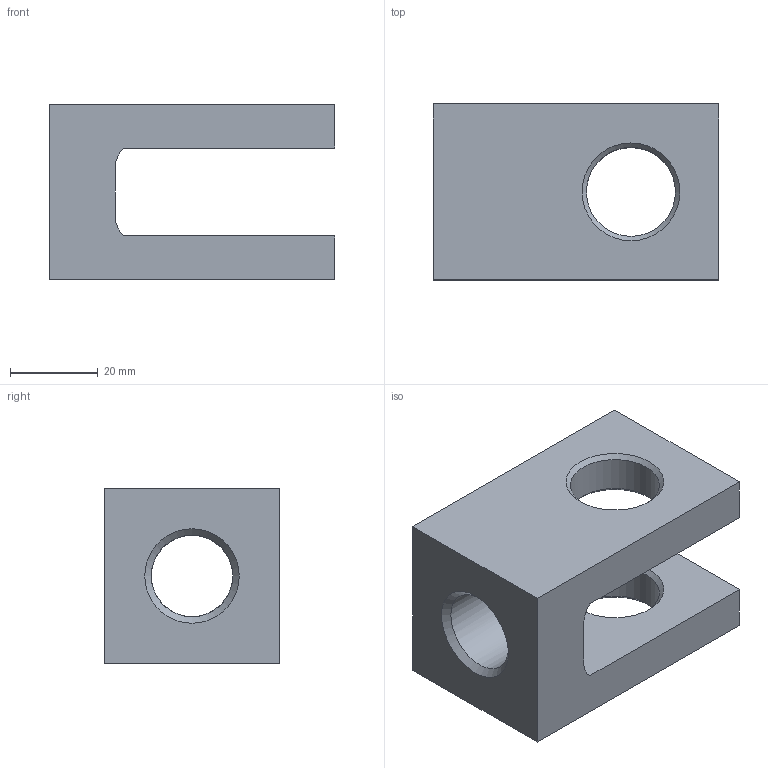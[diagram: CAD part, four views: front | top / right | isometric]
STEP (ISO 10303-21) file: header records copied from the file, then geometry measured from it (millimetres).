
FILE_DESCRIPTION( ( 'Unknown' ), '1' );
FILE_NAME( 'E:/LIBRERIA_3d/ACCESSORI/CFF0202015.stp', 'Unknown', ( 'Unknown' ), ( 'Unknown' ), 'PSStep 17.0.49', 'Unknown', ' ' );
FILE_SCHEMA( ( 'AUTOMOTIVE_DESIGN { 1 0 10303 214 1 1 1 1 }' ) );
Length unit declared in the file: millimetre
Products named in the file (1): 1
Bounding box: 65 x 40 x 40 mm (x, y, z)
Volume: 53525.5 mm3; surface area: 15641.6 mm2
Topology: 1 solids, 1 shells, 21 faces, 55 edges, 35 vertices
Faces by surface type: plane 11, cone 5, cylinder 5
Full cylindrical faces by diameter (mm): 18.5 x1, 20.25 x2
Entity records: 675 total; most frequent: CARTESIAN_POINT 158, DIRECTION 104, ORIENTED_EDGE 92, EDGE_CURVE 46, AXIS2_PLACEMENT_3D 38, EDGE_LOOP 34, VERTEX_POINT 34, LINE 28
